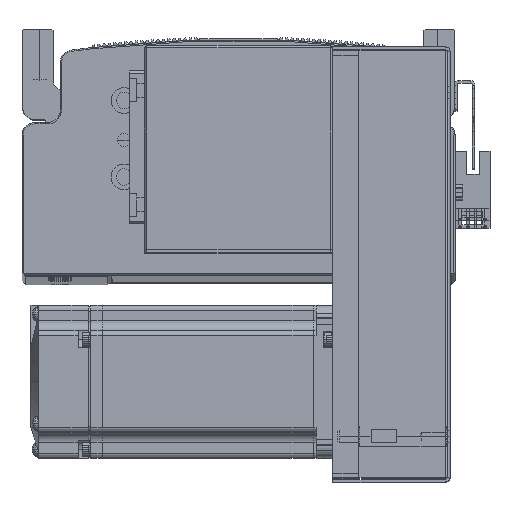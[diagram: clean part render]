
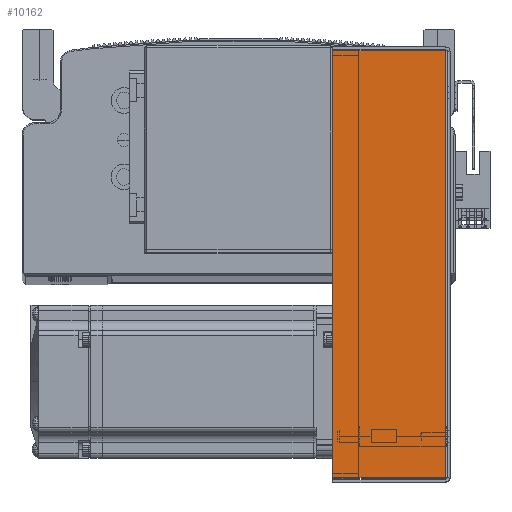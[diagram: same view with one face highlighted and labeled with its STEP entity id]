
A CAD part, top view. The second image highlights one B-rep face of the part: STEP entity #10162.
In plain terms, the highlighted planar face has unit normal (0, 0, 1) as drawn and (0, 0, -1) by its records, which use the part's own axes.
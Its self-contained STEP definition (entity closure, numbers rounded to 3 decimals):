
#9765 = VECTOR ( 'NONE', #68901, 1000. ) ;
#9773 = LINE ( 'NONE', #68903, #9765 ) ;
#9811 = VECTOR ( 'NONE', #68998, 1000. ) ;
#9814 = LINE ( 'NONE', #68968, #9811 ) ;
#9833 = VECTOR ( 'NONE', #69000, 1000. ) ;
#9835 = VECTOR ( 'NONE', #69002, 1000. ) ;
#9841 = LINE ( 'NONE', #69035, #9835 ) ;
#9842 = LINE ( 'NONE', #68996, #9833 ) ;
#10162 = ADVANCED_FACE ( 'NONE', ( #38440 ), #75291, .F. ) ;
#16552 = VERTEX_POINT ( 'NONE', #76537 ) ;
#16626 = VERTEX_POINT ( 'NONE', #76641 ) ;
#16656 = VERTEX_POINT ( 'NONE', #76646 ) ;
#16673 = VERTEX_POINT ( 'NONE', #76669 ) ;
#36747 = AXIS2_PLACEMENT_3D ( 'NONE', #75292, #75232, #75256 ) ;
#38440 = FACE_OUTER_BOUND ( 'NONE', #39978, .T. ) ;
#39490 = ORIENTED_EDGE ( 'NONE', *, *, #61291, .F. ) ;
#39500 = ORIENTED_EDGE ( 'NONE', *, *, #61309, .T. ) ;
#39504 = ORIENTED_EDGE ( 'NONE', *, *, #61308, .T. ) ;
#39519 = ORIENTED_EDGE ( 'NONE', *, *, #61249, .F. ) ;
#39978 = EDGE_LOOP ( 'NONE', ( #39519, #39500, #39504, #39490 ) ) ;
#61249 = EDGE_CURVE ( 'NONE', #16552, #16673, #9773, .T. ) ;
#61291 = EDGE_CURVE ( 'NONE', #16673, #16656, #9814, .T. ) ;
#61308 = EDGE_CURVE ( 'NONE', #16626, #16656, #9842, .T. ) ;
#61309 = EDGE_CURVE ( 'NONE', #16552, #16626, #9841, .T. ) ;
#68901 = DIRECTION ( 'NONE',  ( 1., 0., 0. ) ) ;
#68903 = CARTESIAN_POINT ( 'NONE',  ( 0., 0.737, -40.5 ) ) ;
#68968 = CARTESIAN_POINT ( 'NONE',  ( 83.793, 0., -40.5 ) ) ;
#68996 = CARTESIAN_POINT ( 'NONE',  ( 84.5, 45., -40.5 ) ) ;
#68998 = DIRECTION ( 'NONE',  ( 0., 1., 0. ) ) ;
#69000 = DIRECTION ( 'NONE',  ( 1., 0., 0. ) ) ;
#69002 = DIRECTION ( 'NONE',  ( 0., 1., 0. ) ) ;
#69035 = CARTESIAN_POINT ( 'NONE',  ( -83.793, 0., -40.5 ) ) ;
#75232 = DIRECTION ( 'NONE',  ( 0., 0., 1. ) ) ;
#75256 = DIRECTION ( 'NONE',  ( 0., -1., 0. ) ) ;
#75291 = PLANE ( 'NONE',  #36747 ) ;
#75292 = CARTESIAN_POINT ( 'NONE',  ( 0., 0., -40.5 ) ) ;
#76537 = CARTESIAN_POINT ( 'NONE',  ( -83.793, 0.737, -40.5 ) ) ;
#76641 = CARTESIAN_POINT ( 'NONE',  ( -83.793, 45., -40.5 ) ) ;
#76646 = CARTESIAN_POINT ( 'NONE',  ( 83.793, 45., -40.5 ) ) ;
#76669 = CARTESIAN_POINT ( 'NONE',  ( 83.793, 0.737, -40.5 ) ) ;
